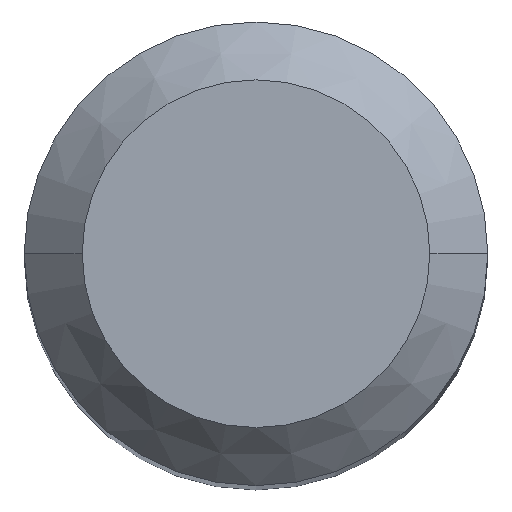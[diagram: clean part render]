
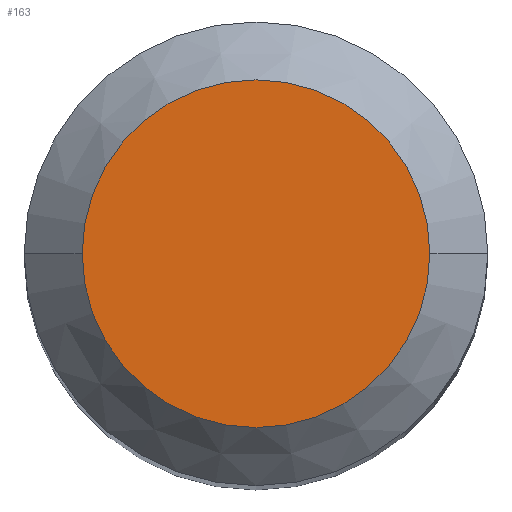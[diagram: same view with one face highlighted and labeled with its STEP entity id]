
A CAD part, top view. The second image highlights one B-rep face of the part: STEP entity #163.
In plain terms, the highlighted planar face has unit normal (0, 0, 1).
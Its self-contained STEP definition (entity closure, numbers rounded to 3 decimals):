
#12 = DIRECTION ( 'NONE',  ( 0., 0., 1. ) ) ;
#16 = CARTESIAN_POINT ( 'NONE',  ( 0., 0., 45. ) ) ;
#20 = AXIS2_PLACEMENT_3D ( 'NONE', #16, #228, #122 ) ;
#28 = CIRCLE ( 'NONE', #38, 3. ) ;
#30 = CARTESIAN_POINT ( 'NONE',  ( 0., 0., 45. ) ) ;
#36 = FACE_OUTER_BOUND ( 'NONE', #83, .T. ) ;
#38 = AXIS2_PLACEMENT_3D ( 'NONE', #231, #187, #77 ) ;
#41 = EDGE_CURVE ( 'NONE', #86, #195, #47, .T. ) ;
#47 = CIRCLE ( 'NONE', #75, 3. ) ;
#75 = AXIS2_PLACEMENT_3D ( 'NONE', #30, #12, #199 ) ;
#77 = DIRECTION ( 'NONE',  ( 1., 0., 0. ) ) ;
#83 = EDGE_LOOP ( 'NONE', ( #241, #177 ) ) ;
#86 = VERTEX_POINT ( 'NONE', #181 ) ;
#100 = CARTESIAN_POINT ( 'NONE',  ( 3., 0., 45. ) ) ;
#119 = PLANE ( 'NONE',  #20 ) ;
#122 = DIRECTION ( 'NONE',  ( 1., 0., 0. ) ) ;
#163 = ADVANCED_FACE ( 'NONE', ( #36 ), #119, .T. ) ;
#177 = ORIENTED_EDGE ( 'NONE', *, *, #224, .T. ) ;
#181 = CARTESIAN_POINT ( 'NONE',  ( -3., 0., 45. ) ) ;
#187 = DIRECTION ( 'NONE',  ( 0., 0., 1. ) ) ;
#195 = VERTEX_POINT ( 'NONE', #100 ) ;
#199 = DIRECTION ( 'NONE',  ( 1., 0., 0. ) ) ;
#224 = EDGE_CURVE ( 'NONE', #195, #86, #28, .T. ) ;
#228 = DIRECTION ( 'NONE',  ( 0., 0., 1. ) ) ;
#231 = CARTESIAN_POINT ( 'NONE',  ( 0., 0., 45. ) ) ;
#241 = ORIENTED_EDGE ( 'NONE', *, *, #41, .T. ) ;
